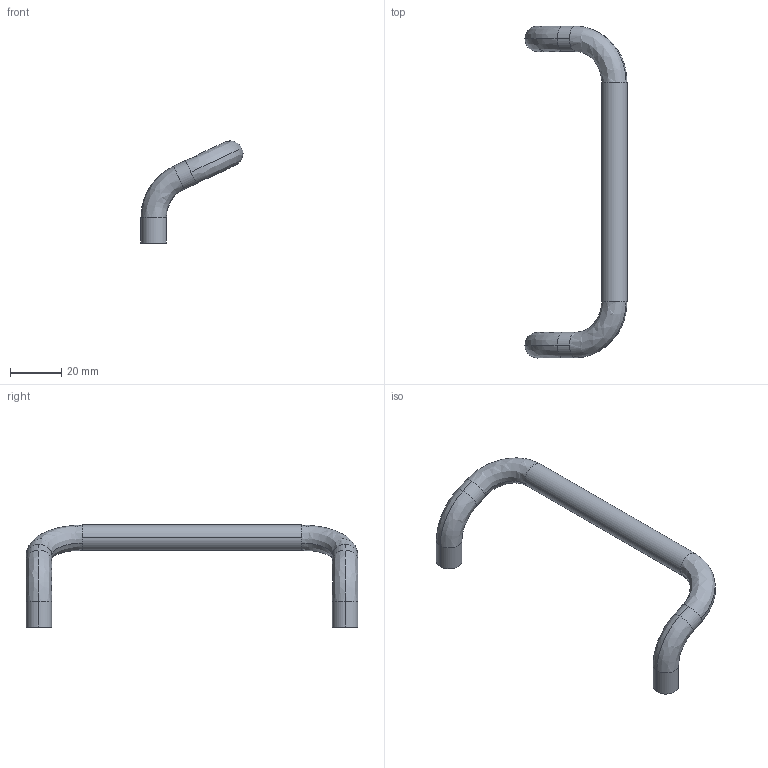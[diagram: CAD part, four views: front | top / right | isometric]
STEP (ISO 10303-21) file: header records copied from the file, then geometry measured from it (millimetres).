
FILE_DESCRIPTION (( 'STEP AP203' ), '1' );
FILE_NAME ('10242_HAN120ALG.STEP', '2018-04-12T07:55:02', ( '' ), ( '' ), 'SwSTEP 2.0', 'SolidWorks 2017', '' );
FILE_SCHEMA (( 'CONFIG_CONTROL_DESIGN' ));
Length unit declared in the file: millimetre
Products named in the file (1): 10242_HAN120ALG
Bounding box: 40 x 130 x 39.99 mm (x, y, z)
Volume: 15964.9 mm3; surface area: 7139.4 mm2
Topology: 1 solids, 1 shells, 28 faces, 66 edges, 38 vertices
Faces by surface type: cylinder 14, bspline 8, cone 4, plane 2
Entity records: 955 total; most frequent: CARTESIAN_POINT 249, DIRECTION 148, ORIENTED_EDGE 124, AXIS2_PLACEMENT_3D 65, EDGE_CURVE 62, CIRCLE 44, VERTEX_POINT 38, EDGE_LOOP 30
